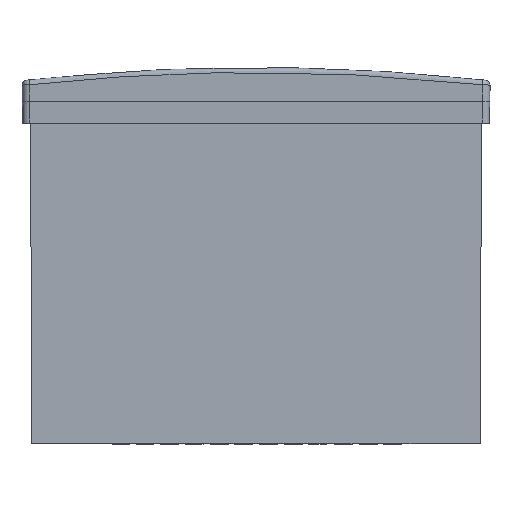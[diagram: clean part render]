
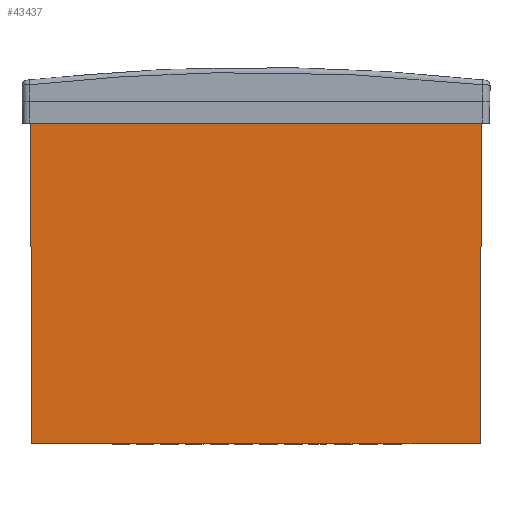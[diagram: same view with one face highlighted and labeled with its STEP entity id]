
A CAD part, top view. The second image highlights one B-rep face of the part: STEP entity #43437.
In plain terms, the highlighted planar face has unit normal (0, -0.002, 1).
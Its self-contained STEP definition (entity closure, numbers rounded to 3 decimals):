
#1023 = EDGE_CURVE ( 'NONE', #24898, #11320, #7820, .T. ) ;
#1194 = CARTESIAN_POINT ( 'NONE',  ( 28.714, -32.8, 21.936 ) ) ;
#2926 = DIRECTION ( 'NONE',  ( 1., 0., 0. ) ) ;
#3630 = DIRECTION ( 'NONE',  ( 1., 0., 0. ) ) ;
#4046 = CARTESIAN_POINT ( 'NONE',  ( 23.614, -32.8, 21.936 ) ) ;
#4609 = VECTOR ( 'NONE', #5732, 1000. ) ;
#5732 = DIRECTION ( 'NONE',  ( 1., 0., 0. ) ) ;
#5788 = DIRECTION ( 'NONE',  ( 1., 0., 0. ) ) ;
#5989 = VERTEX_POINT ( 'NONE', #20229 ) ;
#6607 = LINE ( 'NONE', #36524, #18056 ) ;
#7818 = ORIENTED_EDGE ( 'NONE', *, *, #13816, .T. ) ;
#7820 = LINE ( 'NONE', #27414, #38014 ) ;
#8844 = VERTEX_POINT ( 'NONE', #14492 ) ;
#9026 = DIRECTION ( 'NONE',  ( 1., 0., 0. ) ) ;
#9146 = DIRECTION ( 'NONE',  ( -0.002, -1., -0.002 ) ) ;
#9625 = CARTESIAN_POINT ( 'NONE',  ( -46.15, -32.8, 21.936 ) ) ;
#9698 = LINE ( 'NONE', #13871, #14245 ) ;
#10356 = VECTOR ( 'NONE', #9146, 1000. ) ;
#10402 = ORIENTED_EDGE ( 'NONE', *, *, #47291, .F. ) ;
#11320 = VERTEX_POINT ( 'NONE', #36930 ) ;
#11514 = VERTEX_POINT ( 'NONE', #4046 ) ;
#11713 = CARTESIAN_POINT ( 'NONE',  ( -46.15, -32.8, 21.936 ) ) ;
#11987 = DIRECTION ( 'NONE',  ( 0.002, -1., -0.002 ) ) ;
#12374 = LINE ( 'NONE', #27330, #42565 ) ;
#13499 = VERTEX_POINT ( 'NONE', #39831 ) ;
#13714 = VECTOR ( 'NONE', #9026, 1000. ) ;
#13816 = EDGE_CURVE ( 'NONE', #45707, #27154, #6607, .T. ) ;
#13871 = CARTESIAN_POINT ( 'NONE',  ( -46.15, -32.8, 21.936 ) ) ;
#14245 = VECTOR ( 'NONE', #5788, 1000. ) ;
#14492 = CARTESIAN_POINT ( 'NONE',  ( -46.036, -32.8, 21.936 ) ) ;
#16522 = CARTESIAN_POINT ( 'NONE',  ( 46.15, 32.723, 22.05 ) ) ;
#18056 = VECTOR ( 'NONE', #2926, 1000. ) ;
#19544 = LINE ( 'NONE', #11713, #22889 ) ;
#19865 = EDGE_CURVE ( 'NONE', #13499, #32317, #35160, .T. ) ;
#19957 = CARTESIAN_POINT ( 'NONE',  ( -46.15, 32.8, 22.05 ) ) ;
#20229 = CARTESIAN_POINT ( 'NONE',  ( 19.721, -32.8, 21.936 ) ) ;
#20519 = ORIENTED_EDGE ( 'NONE', *, *, #46986, .T. ) ;
#20878 = VERTEX_POINT ( 'NONE', #32212 ) ;
#21140 = CARTESIAN_POINT ( 'NONE',  ( 23.911, -32.8, 21.936 ) ) ;
#22342 = CARTESIAN_POINT ( 'NONE',  ( -46.15, 32.8, 22.05 ) ) ;
#22889 = VECTOR ( 'NONE', #3630, 1000. ) ;
#24251 = EDGE_LOOP ( 'NONE', ( #45918, #24394, #32336, #25197, #7818, #20519, #25883, #10402, #41026, #48265 ) ) ;
#24394 = ORIENTED_EDGE ( 'NONE', *, *, #42659, .T. ) ;
#24898 = VERTEX_POINT ( 'NONE', #28867 ) ;
#25197 = ORIENTED_EDGE ( 'NONE', *, *, #29380, .T. ) ;
#25397 = LINE ( 'NONE', #43371, #13714 ) ;
#25883 = ORIENTED_EDGE ( 'NONE', *, *, #1023, .T. ) ;
#26024 = DIRECTION ( 'NONE',  ( 0., -1., -0.002 ) ) ;
#26743 = PLANE ( 'NONE',  #47035 ) ;
#27154 = VERTEX_POINT ( 'NONE', #1194 ) ;
#27330 = CARTESIAN_POINT ( 'NONE',  ( -46.15, -32.8, 21.936 ) ) ;
#27414 = CARTESIAN_POINT ( 'NONE',  ( -46.15, -32.8, 21.936 ) ) ;
#27785 = DIRECTION ( 'NONE',  ( 1., 0., 0. ) ) ;
#28271 = LINE ( 'NONE', #9625, #34995 ) ;
#28524 = LINE ( 'NONE', #16522, #10356 ) ;
#28867 = CARTESIAN_POINT ( 'NONE',  ( 29.073, -32.8, 21.936 ) ) ;
#29380 = EDGE_CURVE ( 'NONE', #11514, #45707, #25397, .T. ) ;
#30189 = FACE_OUTER_BOUND ( 'NONE', #24251, .T. ) ;
#30869 = CARTESIAN_POINT ( 'NONE',  ( -46.15, 32.8, 22.05 ) ) ;
#32212 = CARTESIAN_POINT ( 'NONE',  ( 19.362, -32.8, 21.936 ) ) ;
#32317 = VERTEX_POINT ( 'NONE', #43157 ) ;
#32336 = ORIENTED_EDGE ( 'NONE', *, *, #41345, .T. ) ;
#34296 = LINE ( 'NONE', #30869, #47506 ) ;
#34995 = VECTOR ( 'NONE', #27785, 1000. ) ;
#35160 = LINE ( 'NONE', #19957, #4609 ) ;
#36524 = CARTESIAN_POINT ( 'NONE',  ( -46.15, -32.8, 21.936 ) ) ;
#36930 = CARTESIAN_POINT ( 'NONE',  ( 46.036, -32.8, 21.936 ) ) ;
#38014 = VECTOR ( 'NONE', #45588, 1000. ) ;
#38389 = EDGE_CURVE ( 'NONE', #13499, #8844, #34296, .T. ) ;
#39831 = CARTESIAN_POINT ( 'NONE',  ( -46.15, 32.8, 22.05 ) ) ;
#41026 = ORIENTED_EDGE ( 'NONE', *, *, #19865, .F. ) ;
#41345 = EDGE_CURVE ( 'NONE', #5989, #11514, #28271, .T. ) ;
#42303 = DIRECTION ( 'NONE',  ( 1., 0., 0. ) ) ;
#42565 = VECTOR ( 'NONE', #42303, 1000. ) ;
#42659 = EDGE_CURVE ( 'NONE', #20878, #5989, #12374, .T. ) ;
#43157 = CARTESIAN_POINT ( 'NONE',  ( 46.15, 32.8, 22.05 ) ) ;
#43371 = CARTESIAN_POINT ( 'NONE',  ( -46.15, -32.8, 21.936 ) ) ;
#43437 = ADVANCED_FACE ( 'NONE', ( #30189 ), #26743, .T. ) ;
#45153 = DIRECTION ( 'NONE',  ( 0., -0.002, 1. ) ) ;
#45588 = DIRECTION ( 'NONE',  ( 1., 0., 0. ) ) ;
#45707 = VERTEX_POINT ( 'NONE', #21140 ) ;
#45918 = ORIENTED_EDGE ( 'NONE', *, *, #47872, .T. ) ;
#46986 = EDGE_CURVE ( 'NONE', #27154, #24898, #9698, .T. ) ;
#47035 = AXIS2_PLACEMENT_3D ( 'NONE', #22342, #45153, #26024 ) ;
#47291 = EDGE_CURVE ( 'NONE', #32317, #11320, #28524, .T. ) ;
#47506 = VECTOR ( 'NONE', #11987, 1000. ) ;
#47872 = EDGE_CURVE ( 'NONE', #8844, #20878, #19544, .T. ) ;
#48265 = ORIENTED_EDGE ( 'NONE', *, *, #38389, .T. ) ;
